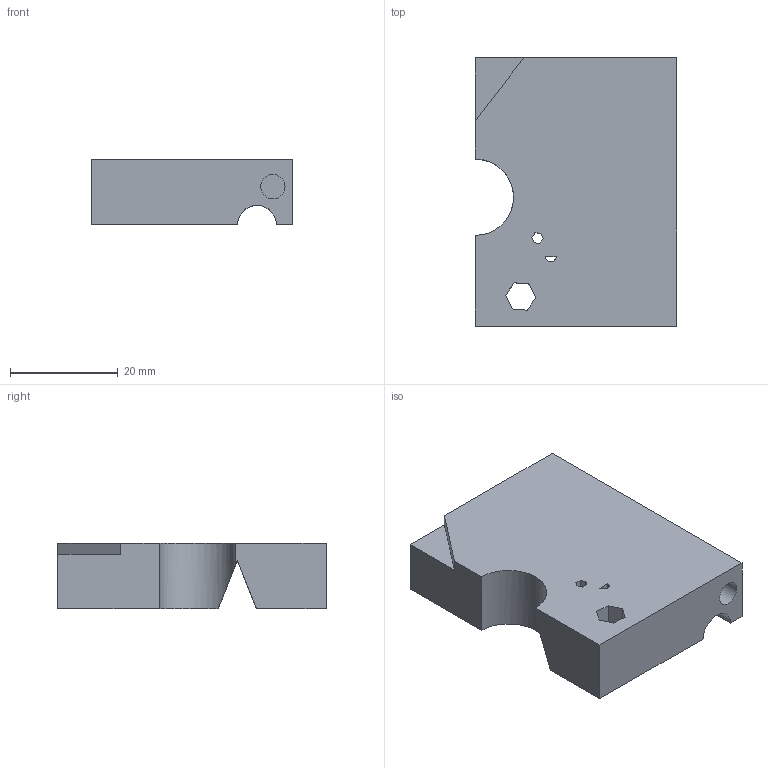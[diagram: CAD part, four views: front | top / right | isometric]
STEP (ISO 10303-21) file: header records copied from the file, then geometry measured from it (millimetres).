
FILE_DESCRIPTION(('Open CASCADE Model'),'2;1');
FILE_NAME('Open CASCADE Shape Model','2021-05-12T21:22:09',('Author'),( 'Open CASCADE'),'Open CASCADE STEP processor 7.4','Open CASCADE 7.4' ,'Unknown');
FILE_SCHEMA(('AUTOMOTIVE_DESIGN { 1 0 10303 214 1 1 1 1 }'));
Length unit declared in the file: millimetre
Products named in the file (1): Open CASCADE STEP translator 7.4 1613
Bounding box: 37.37 x 49.87 x 12.2 mm (x, y, z)
Volume: 19093.1 mm3; surface area: 6703 mm2
Topology: 1 solids, 1 shells, 35 faces, 97 edges, 64 vertices
Faces by surface type: plane 29, cylinder 6
Full cylindrical faces by diameter (mm): 3.827 x1, 4.513 x1
Entity records: 2393 total; most frequent: CARTESIAN_POINT 476, DIRECTION 336, LINE 228, VECTOR 228, ORIENTED_EDGE 194, PCURVE 194, DEFINITIONAL_REPRESENTATION 194, EDGE_CURVE 97
